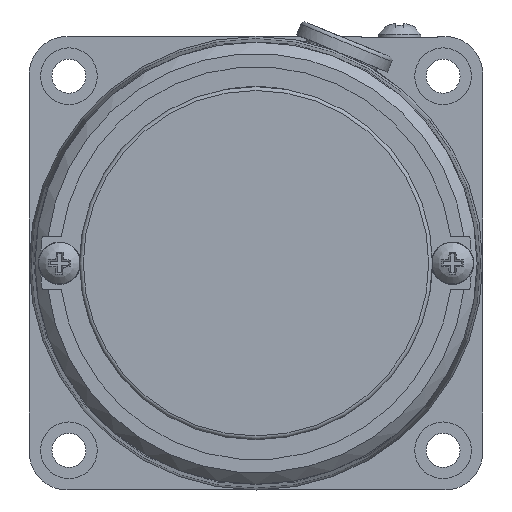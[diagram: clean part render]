
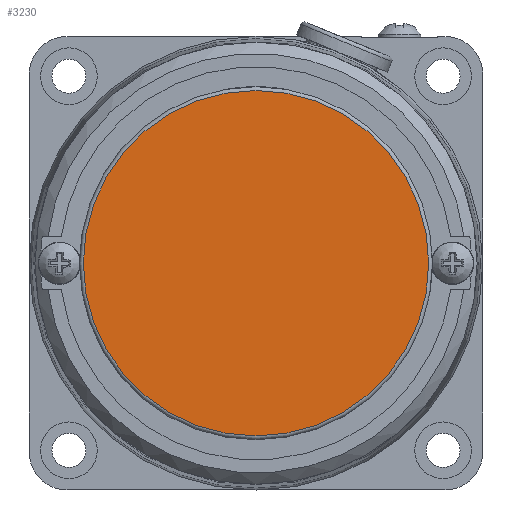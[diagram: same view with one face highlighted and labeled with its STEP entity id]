
A CAD part, left-side view. The second image highlights one B-rep face of the part: STEP entity #3230.
In plain terms, the highlighted planar face has unit normal (-1, 0, 0).
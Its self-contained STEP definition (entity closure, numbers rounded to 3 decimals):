
#165=CIRCLE('',#3469,22.85);
#539=FACE_OUTER_BOUND('',#717,.T.);
#717=EDGE_LOOP('',(#2444));
#1496=VERTEX_POINT('',#5375);
#1847=EDGE_CURVE('',#1496,#1496,#165,.T.);
#2444=ORIENTED_EDGE('',*,*,#1847,.F.);
#3109=PLANE('',#3468);
#3230=ADVANCED_FACE('',(#539),#3109,.T.);
#3468=AXIS2_PLACEMENT_3D('',#5374,#3973,#3974);
#3469=AXIS2_PLACEMENT_3D('',#5376,#3975,#3976);
#3973=DIRECTION('center_axis',(-1.,0.,0.));
#3974=DIRECTION('ref_axis',(0.,-1.,0.));
#3975=DIRECTION('center_axis',(1.,0.,0.));
#3976=DIRECTION('ref_axis',(0.,0.,-1.));
#5374=CARTESIAN_POINT('Origin',(-11.5,0.,19.175));
#5375=CARTESIAN_POINT('',(-11.5,22.85,0.));
#5376=CARTESIAN_POINT('Origin',(-11.5,0.,0.));
